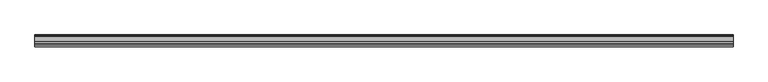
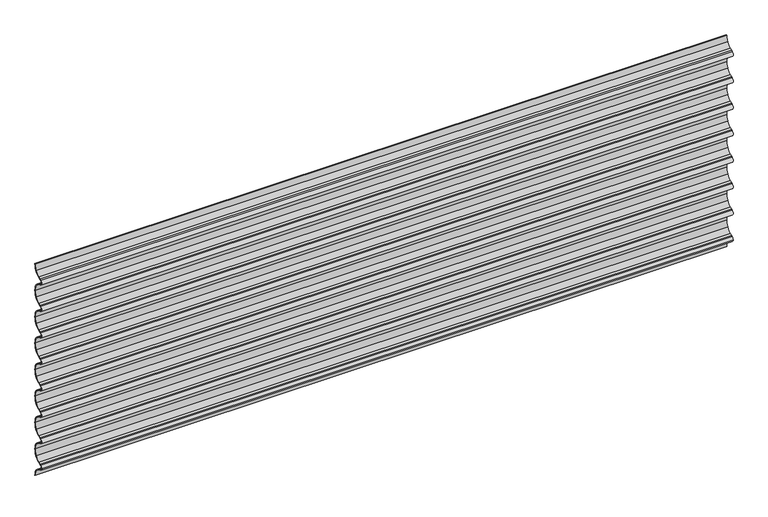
"""IFC4 building model written with IfcOpenShell, lengths in millimetres: plate geometry, Regolare Horizontal 712 : Regolare Horizontal 712."""

from ifc_helpers import new_model, si_unit, point, frame, frame_2d, origin, place, context, project, spatial, polyline, circle_curve, trimmed, segment, composite_curve, outline, extrude, source, transform, mapped, element, save


def plate_4afa8736(model_context):
    return source(origin(), model_context, "Body", "SweptSolid", [
        extrude(outline(composite_curve([segment(trimmed(circle_curve(frame_2d((-32.6206681, 3.5656452)), 30.6166783), [point((-6.5021495, 19.5407501))], [point((-21.2504634, 31.9927351))], True, "CARTESIAN"), True, "CONTINUOUS"), segment(polyline([(-21.2504634, 31.9927351), (-28.4448583, 34.874321), (-31.9093405, 36.5349457)]), True, "CONTINUOUS"), segment(trimmed(circle_curve(frame_2d((-28.0791236, 44.5257445)), 8.8613445), [point((-31.9093405, 36.5349457))], [point((-36.9404682, 44.5257445))], False, "CARTESIAN"), True, "CONTINUOUS"), segment(trimmed(circle_curve(frame_2d((-28.0791236, 44.5257445)), 8.8613445), [point((-36.9404682, 44.5257445))], [point((-31.9093405, 52.5165434))], False, "CARTESIAN"), True, "CONTINUOUS"), segment(polyline([(-31.9093405, 52.5165434), (-28.4448583, 54.1771681), (-21.2504634, 57.058754)]), True, "CONTINUOUS"), segment(trimmed(circle_curve(frame_2d((-32.6206681, 85.4858438)), 30.6166783), [point((-21.2504634, 57.058754))], [point((-6.5021495, 69.5107389))], True, "CARTESIAN"), True, "CONTINUOUS"), segment(trimmed(circle_curve(frame_2d((-38.4503244, 89.0514891)), 37.4503244), [point((-6.5021495, 69.5107389))], [point((-1.0, 89.0514891))], True, "CARTESIAN"), True, "CONTINUOUS"), segment(trimmed(circle_curve(frame_2d((-38.4503244, 89.0514891)), 37.4503244), [point((-1.0, 89.0514891))], [point((-6.5021495, 108.5922392))], True, "CARTESIAN"), True, "CONTINUOUS"), segment(trimmed(circle_curve(frame_2d((-32.6206681, 92.6171343)), 30.6166783), [point((-6.5021495, 108.5922392))], [point((-21.2504634, 121.0442242))], True, "CARTESIAN"), True, "CONTINUOUS"), segment(polyline([(-21.2504634, 121.0442242), (-28.4448583, 123.9258101), (-31.9093405, 125.5864348)]), True, "CONTINUOUS"), segment(trimmed(circle_curve(frame_2d((-28.0791236, 133.5772336)), 8.8613445), [point((-31.9093405, 125.5864348))], [point((-31.9093405, 141.5680324))], False, "CARTESIAN"), True, "CONTINUOUS"), segment(polyline([(-31.9093405, 141.5680324), (-28.4448583, 143.2286572), (-21.2504634, 146.1102431)]), True, "CONTINUOUS"), segment(trimmed(circle_curve(frame_2d((-32.6206681, 174.5373329)), 30.6166783), [point((-21.2504634, 146.1102431))], [point((-6.5021495, 158.562228))], True, "CARTESIAN"), True, "CONTINUOUS"), segment(trimmed(circle_curve(frame_2d((-38.4503244, 178.1029782)), 37.4503244), [point((-6.5021495, 158.562228))], [point((-1.0, 178.1029782))], True, "CARTESIAN"), True, "CONTINUOUS"), segment(trimmed(circle_curve(frame_2d((-38.4503244, 178.1029782)), 37.4503244), [point((-1.0, 178.1029782))], [point((-6.5021495, 197.6437283))], True, "CARTESIAN"), True, "CONTINUOUS"), segment(trimmed(circle_curve(frame_2d((-32.6206681, 181.6686234)), 30.6166783), [point((-6.5021495, 197.6437283))], [point((-21.2504634, 210.0957133))], True, "CARTESIAN"), True, "CONTINUOUS"), segment(polyline([(-21.2504634, 210.0957133), (-28.4448583, 212.9772992), (-31.9093405, 214.6379239)]), True, "CONTINUOUS"), segment(trimmed(circle_curve(frame_2d((-28.0791236, 222.6287227)), 8.8613445), [point((-31.9093405, 214.6379239))], [point((-31.9093405, 230.6195215))], False, "CARTESIAN"), True, "CONTINUOUS"), segment(polyline([(-31.9093405, 230.6195215), (-28.4448583, 232.2801463), (-21.2504634, 235.1617322)]), True, "CONTINUOUS"), segment(trimmed(circle_curve(frame_2d((-32.6206681, 263.588822)), 30.6166783), [point((-21.2504634, 235.1617322))], [point((-6.5021495, 247.6137171))], True, "CARTESIAN"), True, "CONTINUOUS"), segment(trimmed(circle_curve(frame_2d((-38.4503244, 267.1544672)), 37.4503244), [point((-6.5021495, 247.6137171))], [point((-1.0, 267.1544672))], True, "CARTESIAN"), True, "CONTINUOUS"), segment(trimmed(circle_curve(frame_2d((-38.4503244, 267.1544672)), 37.4503244), [point((-1.0, 267.1544672))], [point((-6.5021495, 286.6952174))], True, "CARTESIAN"), True, "CONTINUOUS"), segment(trimmed(circle_curve(frame_2d((-32.6206681, 270.7201125)), 30.6166783), [point((-6.5021495, 286.6952174))], [point((-21.2504634, 299.1472023))], True, "CARTESIAN"), True, "CONTINUOUS"), segment(polyline([(-21.2504634, 299.1472023), (-28.4448583, 302.0287882), (-31.9093405, 303.689413)]), True, "CONTINUOUS"), segment(trimmed(circle_curve(frame_2d((-28.0791236, 311.6802118)), 8.8613445), [point((-31.9093405, 303.689413))], [point((-31.9093405, 319.6710106))], False, "CARTESIAN"), True, "CONTINUOUS"), segment(polyline([(-31.9093405, 319.6710106), (-28.4448583, 321.3316353), (-21.2504634, 324.2132212)]), True, "CONTINUOUS"), segment(trimmed(circle_curve(frame_2d((-32.6206681, 352.6403111)), 30.6166783), [point((-21.2504634, 324.2132212))], [point((-6.5021495, 336.6652062))], True, "CARTESIAN"), True, "CONTINUOUS"), segment(trimmed(circle_curve(frame_2d((-38.4503244, 356.2059563)), 37.4503244), [point((-6.5021495, 336.6652062))], [point((-1.0, 356.2059563))], True, "CARTESIAN"), True, "CONTINUOUS"), segment(trimmed(circle_curve(frame_2d((-38.4503244, 356.2059563)), 37.4503244), [point((-1.0, 356.2059563))], [point((-6.5021495, 375.7467065))], True, "CARTESIAN"), True, "CONTINUOUS"), segment(trimmed(circle_curve(frame_2d((-32.6206681, 359.7716016)), 30.6166783), [point((-6.5021495, 375.7467065))], [point((-21.2504634, 388.1986914))], True, "CARTESIAN"), True, "CONTINUOUS"), segment(polyline([(-21.2504634, 388.1986914), (-28.4448583, 391.0802773), (-31.9093405, 392.740902)]), True, "CONTINUOUS"), segment(trimmed(circle_curve(frame_2d((-28.0791236, 400.7317009)), 8.8613445), [point((-31.9093405, 392.740902))], [point((-31.9093405, 408.7224997))], False, "CARTESIAN"), True, "CONTINUOUS"), segment(polyline([(-31.9093405, 408.7224997), (-28.4448583, 410.3831244), (-21.2504634, 413.2647103)]), True, "CONTINUOUS"), segment(trimmed(circle_curve(frame_2d((-32.6206681, 441.6918002)), 30.6166783), [point((-21.2504634, 413.2647103))], [point((-6.5021495, 425.7166953))], True, "CARTESIAN"), True, "CONTINUOUS"), segment(trimmed(circle_curve(frame_2d((-38.4503244, 445.2574454)), 37.4503244), [point((-6.5021495, 425.7166953))], [point((-1.0, 445.2574454))], True, "CARTESIAN"), True, "CONTINUOUS"), segment(trimmed(circle_curve(frame_2d((-38.4503244, 445.2574454)), 37.4503244), [point((-1.0, 445.2574454))], [point((-6.5021495, 464.7981955))], True, "CARTESIAN"), True, "CONTINUOUS"), segment(trimmed(circle_curve(frame_2d((-32.6206681, 448.8230907)), 30.6166783), [point((-6.5021495, 464.7981955))], [point((-21.2504634, 477.2501805))], True, "CARTESIAN"), True, "CONTINUOUS"), segment(polyline([(-21.2504634, 477.2501805), (-28.4448583, 480.1317664), (-31.9093405, 481.7923911)]), True, "CONTINUOUS"), segment(trimmed(circle_curve(frame_2d((-28.0791236, 489.7831899)), 8.8613445), [point((-31.9093405, 481.7923911))], [point((-31.9093405, 497.7739888))], False, "CARTESIAN"), True, "CONTINUOUS"), segment(polyline([(-31.9093405, 497.7739888), (-28.4448583, 499.4346135), (-21.2504634, 502.3161994)]), True, "CONTINUOUS"), segment(trimmed(circle_curve(frame_2d((-32.6206681, 530.7432892)), 30.6166783), [point((-21.2504634, 502.3161994))], [point((-6.5021495, 514.7681843))], True, "CARTESIAN"), True, "CONTINUOUS"), segment(trimmed(circle_curve(frame_2d((-38.4503244, 534.3089345)), 37.4503244), [point((-6.5021495, 514.7681843))], [point((-1.0, 534.3089345))], True, "CARTESIAN"), True, "CONTINUOUS"), segment(trimmed(circle_curve(frame_2d((-38.4503244, 534.3089345)), 37.4503244), [point((-1.0, 534.3089345))], [point((-6.5021495, 553.8496846))], True, "CARTESIAN"), True, "CONTINUOUS"), segment(trimmed(circle_curve(frame_2d((-32.6206681, 537.8745797)), 30.6166783), [point((-6.5021495, 553.8496846))], [point((-21.2504634, 566.3016696))], True, "CARTESIAN"), True, "CONTINUOUS"), segment(polyline([(-21.2504634, 566.3016696), (-28.4448583, 569.1832555), (-31.9093405, 570.8438802)]), True, "CONTINUOUS"), segment(trimmed(circle_curve(frame_2d((-28.0791236, 578.834679)), 8.8613445), [point((-31.9093405, 570.8438802))], [point((-31.9093405, 586.8254778))], False, "CARTESIAN"), True, "CONTINUOUS"), segment(polyline([(-31.9093405, 586.8254778), (-28.4448583, 588.4861026), (-21.2504634, 591.3676885)]), True, "CONTINUOUS"), segment(trimmed(circle_curve(frame_2d((-32.6206681, 619.7947783)), 30.6166783), [point((-21.2504634, 591.3676885))], [point((-6.5021495, 603.8196734))], True, "CARTESIAN"), True, "CONTINUOUS"), segment(trimmed(circle_curve(frame_2d((-38.4503244, 623.3604236)), 37.4503244), [point((-6.5021495, 603.8196734))], [point((-1.0, 623.3604236))], True, "CARTESIAN"), True, "CONTINUOUS"), segment(trimmed(circle_curve(frame_2d((-38.4503244, 623.3604236)), 37.4503244), [point((-1.0, 623.3604236))], [point((-6.5021495, 642.9011737))], True, "CARTESIAN"), True, "CONTINUOUS"), segment(trimmed(circle_curve(frame_2d((-32.6206681, 626.9260688)), 30.6166783), [point((-6.5021495, 642.9011737))], [point((-21.2504634, 655.3531587))], True, "CARTESIAN"), True, "CONTINUOUS"), segment(polyline([(-21.2504634, 655.3531587), (-28.4448583, 658.2347446), (-31.9093405, 659.8953693)]), True, "CONTINUOUS"), segment(trimmed(circle_curve(frame_2d((-28.0791236, 667.8861681)), 8.8613445), [point((-31.9093405, 659.8953693))], [point((-31.9093405, 675.8769669))], False, "CARTESIAN"), True, "CONTINUOUS"), segment(polyline([(-31.9093405, 675.8769669), (-28.4448583, 677.5375917), (-21.2504634, 680.4191776)]), True, "CONTINUOUS"), segment(trimmed(circle_curve(frame_2d((-32.6206681, 708.8462674)), 30.6166783), [point((-21.2504634, 680.4191776))], [point((-6.5021495, 692.8711625))], True, "CARTESIAN"), True, "CONTINUOUS"), segment(trimmed(circle_curve(frame_2d((-38.4503244, 712.4119126)), 37.4503244), [point((-6.5021495, 692.8711625))], [point((-1.0, 712.4119126))], True, "CARTESIAN"), True, "CONTINUOUS"), segment(polyline([(-1.0, 712.4119126), (0.0, 712.4119126)]), True, "CONTINUOUS"), segment(trimmed(circle_curve(frame_2d((-38.4503244, 712.4119126)), 38.4503244), [point((0.0, 712.4119126))], [point((-5.6490681, 692.3493846))], False, "CARTESIAN"), True, "CONTINUOUS"), segment(trimmed(circle_curve(frame_2d((-32.6206681, 708.8462674)), 31.6166783), [point((-5.6490681, 692.3493846))], [point((-20.878867, 679.4907832))], False, "CARTESIAN"), True, "CONTINUOUS"), segment(polyline([(-20.878867, 679.4907832), (-28.0423924, 676.6215615), (-31.4771017, 674.9752077)]), True, "CONTINUOUS"), segment(trimmed(circle_curve(frame_2d((-28.0791236, 667.8861681)), 7.8613445), [point((-31.4771017, 674.9752077))], [point((-31.4771017, 660.7971285))], True, "CARTESIAN"), True, "CONTINUOUS"), segment(polyline([(-31.4771017, 660.7971285), (-28.0423924, 659.1507748), (-20.878867, 656.281553)]), True, "CONTINUOUS"), segment(trimmed(circle_curve(frame_2d((-32.6206681, 626.9260688)), 31.6166783), [point((-20.878867, 656.281553))], [point((-5.6490681, 643.4229516))], False, "CARTESIAN"), True, "CONTINUOUS"), segment(trimmed(circle_curve(frame_2d((-38.4503244, 623.3604236)), 38.4503244), [point((-5.6490681, 643.4229516))], [point((0.0, 623.3604236))], False, "CARTESIAN"), True, "CONTINUOUS"), segment(trimmed(circle_curve(frame_2d((-38.4503244, 623.3604236)), 38.4503244), [point((0.0, 623.3604236))], [point((-5.6490681, 603.2978956))], False, "CARTESIAN"), True, "CONTINUOUS"), segment(trimmed(circle_curve(frame_2d((-32.6206681, 619.7947783)), 31.6166783), [point((-5.6490681, 603.2978956))], [point((-20.878867, 590.4392941))], False, "CARTESIAN"), True, "CONTINUOUS"), segment(polyline([(-20.878867, 590.4392941), (-28.0423924, 587.5700724), (-31.4771017, 585.9237187)]), True, "CONTINUOUS"), segment(trimmed(circle_curve(frame_2d((-28.0791236, 578.834679)), 7.8613445), [point((-31.4771017, 585.9237187))], [point((-31.4771017, 571.7456394))], True, "CARTESIAN"), True, "CONTINUOUS"), segment(polyline([(-31.4771017, 571.7456394), (-28.0423924, 570.0992857), (-20.878867, 567.230064)]), True, "CONTINUOUS"), segment(trimmed(circle_curve(frame_2d((-32.6206681, 537.8745797)), 31.6166783), [point((-20.878867, 567.230064))], [point((-5.6490681, 554.3714625))], False, "CARTESIAN"), True, "CONTINUOUS"), segment(trimmed(circle_curve(frame_2d((-38.4503244, 534.3089345)), 38.4503244), [point((-5.6490681, 554.3714625))], [point((0.0, 534.3089345))], False, "CARTESIAN"), True, "CONTINUOUS"), segment(trimmed(circle_curve(frame_2d((-38.4503244, 534.3089345)), 38.4503244), [point((0.0, 534.3089345))], [point((-5.6490681, 514.2464065))], False, "CARTESIAN"), True, "CONTINUOUS"), segment(trimmed(circle_curve(frame_2d((-32.6206681, 530.7432892)), 31.6166783), [point((-5.6490681, 514.2464065))], [point((-20.878867, 501.387805))], False, "CARTESIAN"), True, "CONTINUOUS"), segment(polyline([(-20.878867, 501.387805), (-28.0423924, 498.5185833), (-31.4771017, 496.8722296)]), True, "CONTINUOUS"), segment(trimmed(circle_curve(frame_2d((-28.0791236, 489.7831899)), 7.8613445), [point((-31.4771017, 496.8722296))], [point((-31.4771017, 482.6941503))], True, "CARTESIAN"), True, "CONTINUOUS"), segment(polyline([(-31.4771017, 482.6941503), (-28.0423924, 481.0477966), (-20.878867, 478.1785749)]), True, "CONTINUOUS"), segment(trimmed(circle_curve(frame_2d((-32.6206681, 448.8230907)), 31.6166783), [point((-20.878867, 478.1785749))], [point((-5.6490681, 465.3199734))], False, "CARTESIAN"), True, "CONTINUOUS"), segment(trimmed(circle_curve(frame_2d((-38.4503244, 445.2574454)), 38.4503244), [point((-5.6490681, 465.3199734))], [point((0.0, 445.2574454))], False, "CARTESIAN"), True, "CONTINUOUS"), segment(trimmed(circle_curve(frame_2d((-38.4503244, 445.2574454)), 38.4503244), [point((0.0, 445.2574454))], [point((-5.6490681, 425.1949174))], False, "CARTESIAN"), True, "CONTINUOUS"), segment(trimmed(circle_curve(frame_2d((-32.6206681, 441.6918002)), 31.6166783), [point((-5.6490681, 425.1949174))], [point((-20.878867, 412.3363159))], False, "CARTESIAN"), True, "CONTINUOUS"), segment(polyline([(-20.878867, 412.3363159), (-28.0423924, 409.4670942), (-31.4771017, 407.8207405)]), True, "CONTINUOUS"), segment(trimmed(circle_curve(frame_2d((-28.0791236, 400.7317009)), 7.8613445), [point((-31.4771017, 407.8207405))], [point((-31.4771017, 393.6426612))], True, "CARTESIAN"), True, "CONTINUOUS"), segment(polyline([(-31.4771017, 393.6426612), (-28.0423924, 391.9963075), (-20.878867, 389.1270858)]), True, "CONTINUOUS"), segment(trimmed(circle_curve(frame_2d((-32.6206681, 359.7716016)), 31.6166783), [point((-20.878867, 389.1270858))], [point((-5.6490681, 376.2684843))], False, "CARTESIAN"), True, "CONTINUOUS"), segment(trimmed(circle_curve(frame_2d((-38.4503244, 356.2059563)), 38.4503244), [point((-5.6490681, 376.2684843))], [point((0.0, 356.2059563))], False, "CARTESIAN"), True, "CONTINUOUS"), segment(trimmed(circle_curve(frame_2d((-38.4503244, 356.2059563)), 38.4503244), [point((0.0, 356.2059563))], [point((-5.6490681, 336.1434283))], False, "CARTESIAN"), True, "CONTINUOUS"), segment(trimmed(circle_curve(frame_2d((-32.6206681, 352.6403111)), 31.6166783), [point((-5.6490681, 336.1434283))], [point((-20.878867, 323.2848269))], False, "CARTESIAN"), True, "CONTINUOUS"), segment(polyline([(-20.878867, 323.2848269), (-28.0423924, 320.4156051), (-31.4771017, 318.7692514)]), True, "CONTINUOUS"), segment(trimmed(circle_curve(frame_2d((-28.0791236, 311.6802118)), 7.8613445), [point((-31.4771017, 318.7692514))], [point((-31.4771017, 304.5911721))], True, "CARTESIAN"), True, "CONTINUOUS"), segment(polyline([(-31.4771017, 304.5911721), (-28.0423924, 302.9448184), (-20.878867, 300.0755967)]), True, "CONTINUOUS"), segment(trimmed(circle_curve(frame_2d((-32.6206681, 270.7201125)), 31.6166783), [point((-20.878867, 300.0755967))], [point((-5.6490681, 287.2169952))], False, "CARTESIAN"), True, "CONTINUOUS"), segment(trimmed(circle_curve(frame_2d((-38.4503244, 267.1544672)), 38.4503244), [point((-5.6490681, 287.2169952))], [point((0.0, 267.1544672))], False, "CARTESIAN"), True, "CONTINUOUS"), segment(trimmed(circle_curve(frame_2d((-38.4503244, 267.1544672)), 38.4503244), [point((0.0, 267.1544672))], [point((-5.6490681, 247.0919392))], False, "CARTESIAN"), True, "CONTINUOUS"), segment(trimmed(circle_curve(frame_2d((-32.6206681, 263.588822)), 31.6166783), [point((-5.6490681, 247.0919392))], [point((-20.878867, 234.2333378))], False, "CARTESIAN"), True, "CONTINUOUS"), segment(polyline([(-20.878867, 234.2333378), (-28.0423924, 231.3641161), (-31.4771017, 229.7177623)]), True, "CONTINUOUS"), segment(trimmed(circle_curve(frame_2d((-28.0791236, 222.6287227)), 7.8613445), [point((-31.4771017, 229.7177623))], [point((-31.4771017, 215.5396831))], True, "CARTESIAN"), True, "CONTINUOUS"), segment(polyline([(-31.4771017, 215.5396831), (-28.0423924, 213.8933293), (-20.878867, 211.0241076)]), True, "CONTINUOUS"), segment(trimmed(circle_curve(frame_2d((-32.6206681, 181.6686234)), 31.6166783), [point((-20.878867, 211.0241076))], [point((-5.6490681, 198.1655062))], False, "CARTESIAN"), True, "CONTINUOUS"), segment(trimmed(circle_curve(frame_2d((-38.4503244, 178.1029782)), 38.4503244), [point((-5.6490681, 198.1655062))], [point((0.0, 178.1029782))], False, "CARTESIAN"), True, "CONTINUOUS"), segment(trimmed(circle_curve(frame_2d((-38.4503244, 178.1029782)), 38.4503244), [point((0.0, 178.1029782))], [point((-5.6490681, 158.0404502))], False, "CARTESIAN"), True, "CONTINUOUS"), segment(trimmed(circle_curve(frame_2d((-32.6206681, 174.5373329)), 31.6166783), [point((-5.6490681, 158.0404502))], [point((-20.878867, 145.1818487))], False, "CARTESIAN"), True, "CONTINUOUS"), segment(polyline([(-20.878867, 145.1818487), (-28.0423924, 142.312627), (-31.4771017, 140.6662733)]), True, "CONTINUOUS"), segment(trimmed(circle_curve(frame_2d((-28.0791236, 133.5772336)), 7.8613445), [point((-31.4771017, 140.6662733))], [point((-31.4771017, 126.488194))], True, "CARTESIAN"), True, "CONTINUOUS"), segment(polyline([(-31.4771017, 126.488194), (-28.0423924, 124.8418403), (-20.878867, 121.9726185)]), True, "CONTINUOUS"), segment(trimmed(circle_curve(frame_2d((-32.6206681, 92.6171343)), 31.6166783), [point((-20.878867, 121.9726185))], [point((-5.6490681, 109.1140171))], False, "CARTESIAN"), True, "CONTINUOUS"), segment(trimmed(circle_curve(frame_2d((-38.4503244, 89.0514891)), 38.4503244), [point((-5.6490681, 109.1140171))], [point((0.0, 89.0514891))], False, "CARTESIAN"), True, "CONTINUOUS"), segment(trimmed(circle_curve(frame_2d((-38.4503244, 89.0514891)), 38.4503244), [point((0.0, 89.0514891))], [point((-5.6490681, 68.9889611))], False, "CARTESIAN"), True, "CONTINUOUS"), segment(trimmed(circle_curve(frame_2d((-32.6206681, 85.4858438)), 31.6166783), [point((-5.6490681, 68.9889611))], [point((-20.878867, 56.1303596))], False, "CARTESIAN"), True, "CONTINUOUS"), segment(polyline([(-20.878867, 56.1303596), (-28.0423924, 53.2611379), (-31.4771017, 51.6147842)]), True, "CONTINUOUS"), segment(trimmed(circle_curve(frame_2d((-28.0791236, 44.5257445)), 7.8613445), [point((-31.4771017, 51.6147842))], [point((-35.9404682, 44.5257445))], True, "CARTESIAN"), True, "CONTINUOUS"), segment(trimmed(circle_curve(frame_2d((-28.0791236, 44.5257445)), 7.8613445), [point((-35.9404682, 44.5257445))], [point((-31.4771017, 37.4367049))], True, "CARTESIAN"), True, "CONTINUOUS"), segment(polyline([(-31.4771017, 37.4367049), (-28.0423924, 35.7903512), (-20.878867, 32.9211295)]), True, "CONTINUOUS"), segment(trimmed(circle_curve(frame_2d((-32.6206681, 3.5656452)), 31.6166783), [point((-20.878867, 32.9211295))], [point((-5.6490681, 20.062528))], False, "CARTESIAN"), True, "CONTINUOUS"), segment(trimmed(circle_curve(frame_2d((-38.4503244, 0.0)), 38.4503244), [point((-5.6490681, 20.062528))], [point((0.0, 0.0))], False, "CARTESIAN"), True, "CONTINUOUS"), segment(polyline([(0.0, 0.0), (-1.0, 0.0)]), True, "CONTINUOUS"), segment(trimmed(circle_curve(frame_2d((-38.4503244, 0.0)), 37.4503244), [point((-1.0, 0.0))], [point((-6.5021495, 19.5407501))], True, "CARTESIAN"), True, "CONTINUOUS")], self_intersect=False)), frame((-1100.0, 0.0, 0.0), z_axis=(1.0, 0.0, 0.0), x_axis=(0.0, 1.0, 0.0)), (0.0, 0.0, 1.0), 2200.0),
    ])


if __name__ == "__main__":
    model = new_model("IFC4")
    model_context = context("Model", 3, world=origin())
    ifc_project = project(units=[si_unit("LENGTHUNIT", "METRE", prefix="MILLI")], contexts=[model_context])
    site = spatial("IfcSite", under=ifc_project)
    building = spatial("IfcBuilding", under=site)
    placement = place(None, origin())
    plate_shape = plate_4afa8736(model_context)
    element("IfcPlate", 1, ObjectType="Regolare Horizontal 712 : Regolare Horizontal 712", at=placement, inside=building, context=model_context, shape_type="MappedRepresentation", body=[
        mapped(plate_shape, transform((0.0, 0.0, 0.0), x_axis=(1.0, 0.0, 0.0), y_axis=(0.0, 1.0, 0.0), z_axis=(0.0, 0.0, 1.0))),
    ])
    save(model, "model.ifc")
